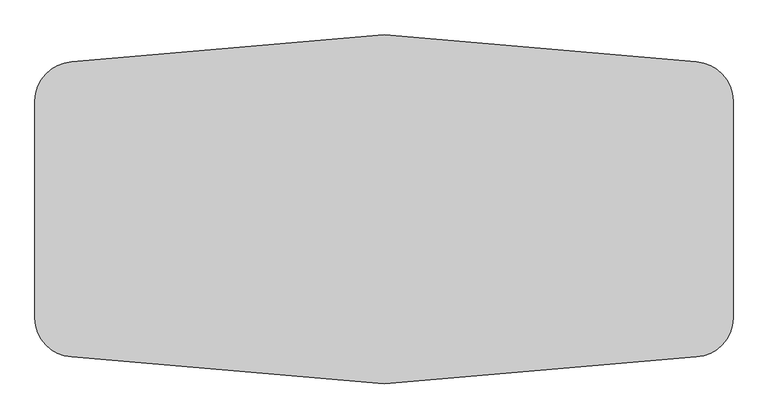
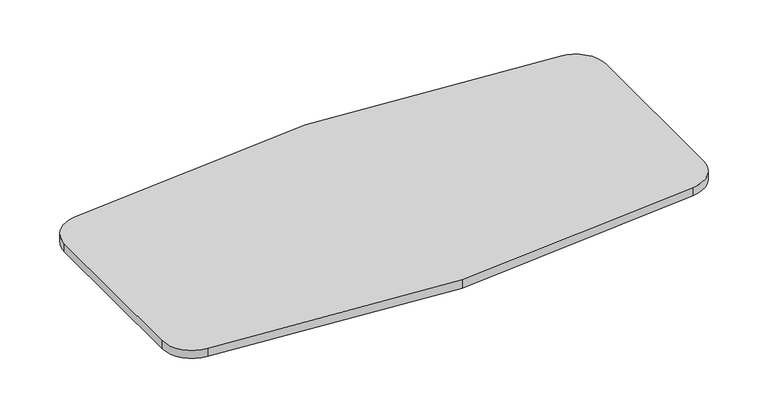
"""IFC4 building model written with IfcOpenShell, lengths in millimetres: furniture geometry, Steelcase - Answer Solution - Universal Table - Hex Conference : 36D x 72W."""

from ifc_helpers import new_model, si_unit, point, frame, frame_2d, origin, place, context, project, spatial, polyline, circle_curve, trimmed, segment, composite_curve, outline, extrude, source, transform, mapped, element, save


def furniture_5fea9398(model_context):
    return source(origin(), model_context, "Body", "SweptSolid", [
        extrude(outline(composite_curve([segment(trimmed(circle_curve(frame_2d((98.425, -302.7314557)), 101.6), [point((-3.175, -302.7314557))], [point((92.789246, -201.2878838))], False, "CARTESIAN"), True, "CONTINUOUS"), segment(polyline([(92.789246, -201.2878838), (911.225, -130.4192308), (1729.660754, -201.2878838)]), True, "CONTINUOUS"), segment(trimmed(circle_curve(frame_2d((1724.025, -302.7314557)), 101.6), [point((1729.660754, -201.2878838))], [point((1825.625, -302.7314557))], False, "CARTESIAN"), True, "CONTINUOUS"), segment(polyline([(1825.625, -302.7314557), (1825.625, -872.5070059)]), True, "CONTINUOUS"), segment(trimmed(circle_curve(frame_2d((1724.025, -872.5070059)), 101.6), [point((1825.625, -872.5070059))], [point((1729.660754, -973.9505778))], False, "CARTESIAN"), True, "CONTINUOUS"), segment(polyline([(1729.660754, -973.9505778), (911.225, -1044.8192308), (92.789246, -973.9505778)]), True, "CONTINUOUS"), segment(trimmed(circle_curve(frame_2d((98.425, -872.5070059)), 101.6), [point((92.789246, -973.9505778))], [point((-3.175, -872.5070059))], False, "CARTESIAN"), True, "CONTINUOUS"), segment(polyline([(-3.175, -872.5070059), (-3.175, -302.7314557)]), True, "CONTINUOUS")], self_intersect=False)), frame((0.0, 0.0, 668.274), z_axis=(0.0, 0.0, 1.0), x_axis=(1.0, 0.0, 0.0)), (0.0, 0.0, 1.0), 28.575),
    ])


if __name__ == "__main__":
    model = new_model("IFC4")
    model_context = context("Model", 3, world=origin())
    ifc_project = project(units=[si_unit("LENGTHUNIT", "METRE", prefix="MILLI")], contexts=[model_context])
    site = spatial("IfcSite", under=ifc_project)
    building = spatial("IfcBuilding", under=site)
    placement = place(None, origin())
    furniture_shape = furniture_5fea9398(model_context)
    element("IfcFurniture", 1, ObjectType="Steelcase - Answer Solution - Universal Table - Hex Conference : 36D x 72W", at=placement, inside=building, context=model_context, shape_type="MappedRepresentation", body=[
        mapped(furniture_shape, transform((0.0, 0.0, 0.0), x_axis=(1.0, 0.0, 0.0), y_axis=(0.0, 1.0, 0.0), z_axis=(0.0, 0.0, 1.0))),
    ])
    save(model, "model.ifc")
